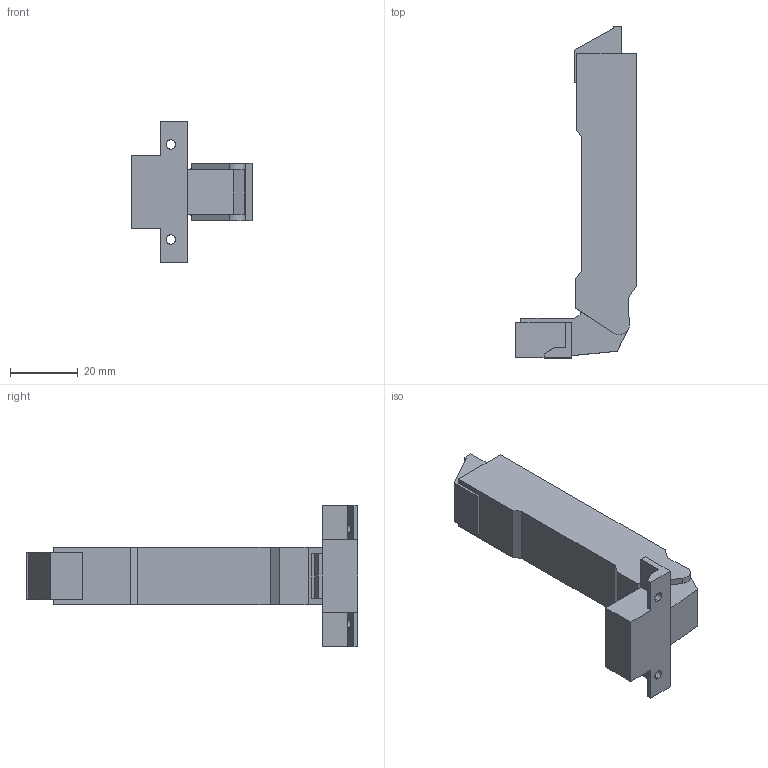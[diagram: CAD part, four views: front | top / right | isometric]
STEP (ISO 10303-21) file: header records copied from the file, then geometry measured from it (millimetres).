
FILE_DESCRIPTION (( 'STEP AP214' ), '1' );
FILE_NAME ('Scharnier TT Click-on 110° AL, K03.step', '2010-12-13T09:56:04', ( 'grass' ), ( '' ), 'SwSTEP 2.0', 'SolidWorks 2010', '' );
FILE_SCHEMA (( 'AUTOMOTIVE_DESIGN' ));
Length unit declared in the file: millimetre
Products named in the file (1): Scharnier TT Click-on 110° AL, K03
Bounding box: 35.5 x 97.8 x 41.8 mm (x, y, z)
Volume: 29693.1 mm3; surface area: 8883.7 mm2
Topology: 1 solids, 1 shells, 61 faces, 174 edges, 116 vertices
Faces by surface type: plane 50, cylinder 11
Entity records: 2012 total; most frequent: CARTESIAN_POINT 370, ORIENTED_EDGE 348, DIRECTION 314, EDGE_CURVE 174, VECTOR 146, LINE 146, VERTEX_POINT 116, AXIS2_PLACEMENT_3D 84
